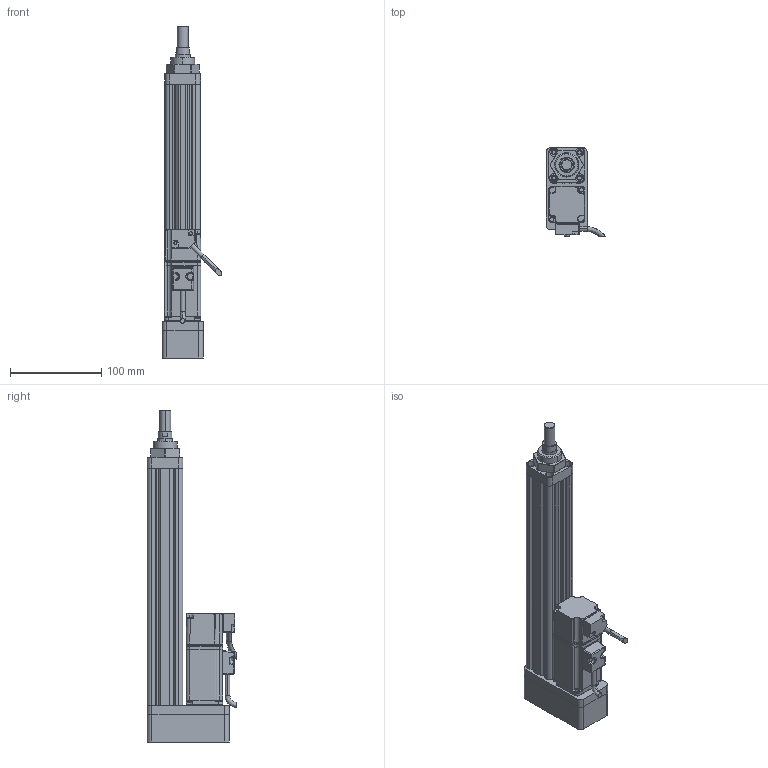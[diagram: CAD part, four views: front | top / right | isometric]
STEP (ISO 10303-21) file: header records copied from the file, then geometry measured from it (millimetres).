
FILE_DESCRIPTION (( 'STEP AP214' ), '1' );
FILE_NAME ('039-S200-D02-B-M4-C1-2.STEP', '2021-02-25T08:54:32', ( '' ), ( '' ), 'SwSTEP 2.0', 'SolidWorks 2018', '' );
FILE_SCHEMA (( 'AUTOMOTIVE_DESIGN' ));
Length unit declared in the file: millimetre
Products named in the file (8): CMC039-DT; CMC039-HXT; CMC039-GT; CMC039-M261; CMC039-LJB; ECMA-CX0401ES-40框號系列機種-100W低慣量系列; 039-S200-D02-B-M4-C1-2; CMC039-FL
Assembly tree (7 placements, depth 2):
  039-S200-D02-B-M4-C1-2
    CMC039-GT
    CMC039-LJB
    CMC039-FL
    CMC039-DT
    ECMA-CX0401ES-40框號系列機種-100W低慣量系列
    CMC039-M261
    CMC039-HXT
Bounding box: 65.34 x 97.89 x 364 mm (x, y, z)
Volume: 508177.5 mm3; surface area: 161263.7 mm2
Topology: 7 solids, 15 shells, 700 faces, 1816 edges, 1128 vertices
Faces by surface type: cylinder 287, plane 270, bspline 84, cone 59
Entity records: 27587 total; most frequent: CARTESIAN_POINT 11136, ORIENTED_EDGE 3566, DIRECTION 2952, EDGE_CURVE 1783, VERTEX_POINT 1128, AXIS2_PLACEMENT_3D 1031, LINE 890, VECTOR 890
